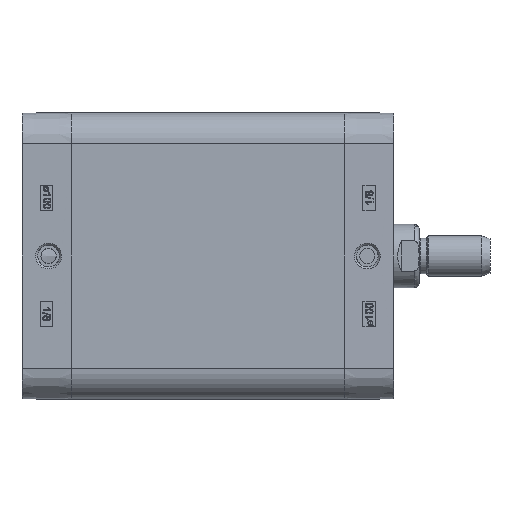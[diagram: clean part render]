
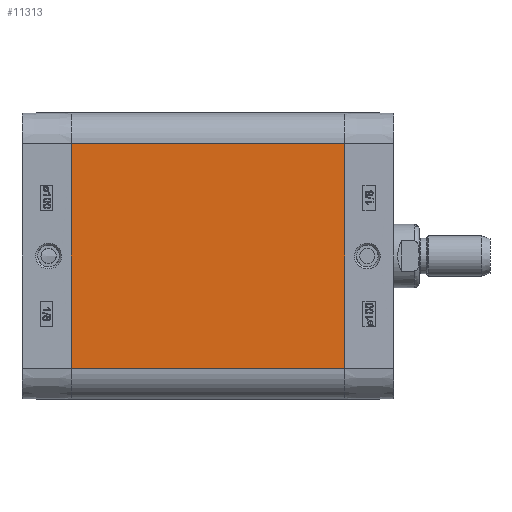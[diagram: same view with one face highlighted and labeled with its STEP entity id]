
A CAD part, left-side view. The second image highlights one B-rep face of the part: STEP entity #11313.
In plain terms, the highlighted planar face has unit normal (-1, 0, 0).
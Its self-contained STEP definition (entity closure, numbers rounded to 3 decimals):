
#5678=CARTESIAN_POINT('',(-56.65,-108.0,44.4));
#5679=VERTEX_POINT('',#5678);
#5686=CARTESIAN_POINT('',(-56.65,-108.0,-44.4));
#5687=VERTEX_POINT('',#5686);
#5688=CARTESIAN_POINT('',(-56.65,-108.0,-44.4));
#5689=DIRECTION('',(0.0,0.0,1.0));
#5690=VECTOR('',#5689,88.8);
#5691=LINE('',#5688,#5690);
#5692=EDGE_CURVE('',#5687,#5679,#5691,.T.);
#11271=CARTESIAN_POINT('',(-56.65,0.0,-44.4));
#11272=VERTEX_POINT('',#11271);
#11273=CARTESIAN_POINT('',(-56.65,0.0,-44.4));
#11274=DIRECTION('',(0.0,-1.0,0.0));
#11275=VECTOR('',#11274,108.0);
#11276=LINE('',#11273,#11275);
#11277=EDGE_CURVE('',#11272,#5687,#11276,.T.);
#11290=CARTESIAN_POINT('',(-56.65,0.0,-44.4));
#11291=DIRECTION('',(-1.0,0.0,0.0));
#11292=DIRECTION('',(0.0,0.0,1.0));
#11293=AXIS2_PLACEMENT_3D('',#11290,#11291,#11292);
#11294=PLANE('',#11293);
#11295=ORIENTED_EDGE('',*,*,#5692,.T.);
#11296=CARTESIAN_POINT('',(-56.65,0.0,44.4));
#11297=VERTEX_POINT('',#11296);
#11298=CARTESIAN_POINT('',(-56.65,0.0,44.4));
#11299=DIRECTION('',(0.0,-1.0,0.0));
#11300=VECTOR('',#11299,108.0);
#11301=LINE('',#11298,#11300);
#11302=EDGE_CURVE('',#11297,#5679,#11301,.T.);
#11303=ORIENTED_EDGE('',*,*,#11302,.F.);
#11304=CARTESIAN_POINT('',(-56.65,0.0,-44.4));
#11305=DIRECTION('',(0.0,0.0,1.0));
#11306=VECTOR('',#11305,88.8);
#11307=LINE('',#11304,#11306);
#11308=EDGE_CURVE('',#11272,#11297,#11307,.T.);
#11309=ORIENTED_EDGE('',*,*,#11308,.F.);
#11310=ORIENTED_EDGE('',*,*,#11277,.T.);
#11311=EDGE_LOOP('',(#11295,#11303,#11309,#11310));
#11312=FACE_OUTER_BOUND('',#11311,.T.);
#11313=ADVANCED_FACE('',(#11312),#11294,.T.);
